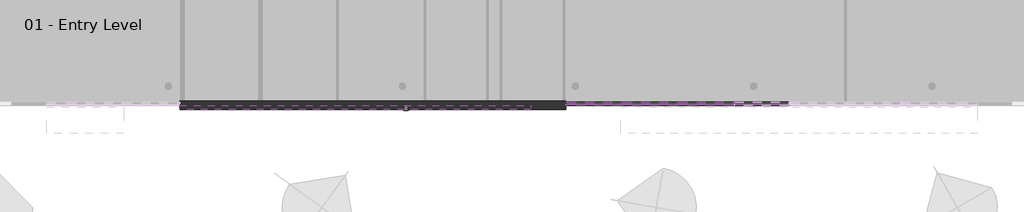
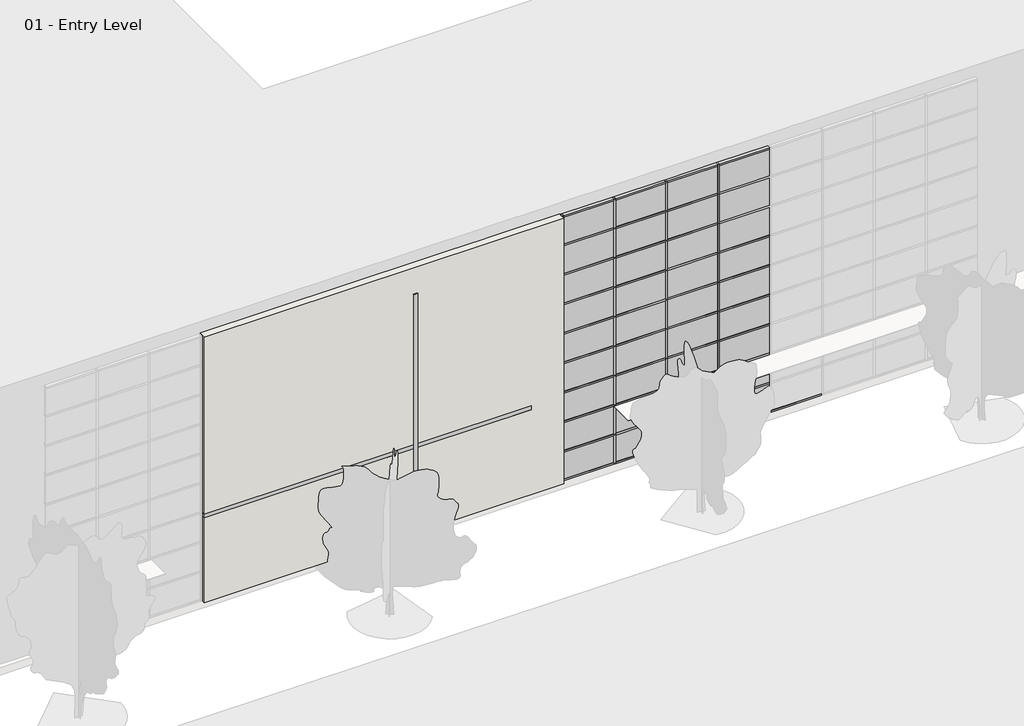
# One storey, part 2 of 34: 84 members, 36 plates, 2 proxies, 1 wall.
"""IFC4 building model written with IfcOpenShell, lengths in millimetres."""

from ifc_helpers import new_model, si_unit, frame, origin, origin_with_axes, place, context, project, spatial, polyline, outline, extrude, faceted_brep, transform, mapped, element, save
from components import member_2b49869a, member_75074519, member_391b434c, member_9e90ae50, system_panel_glazed_1b9d6098, system_panel_glazed_70da479d, system_panel_solid_b376696c, system_panel_solid_77e8b053

model = new_model("IFC4")

# Units and contexts
model_context = context("Model", 3, world=origin())
ifc_project = project(units=[si_unit("LENGTHUNIT", "METRE", prefix="MILLI")], contexts=[model_context])

# Site, building, storey
site = spatial("IfcSite", under=ifc_project)
building = spatial("IfcBuilding", under=site)
storey = spatial("IfcBuildingStorey", under=building, Name="01 - Entry Level", Elevation=0.0)

# Proxies
placement = place(None, origin())
element("IfcBuildingElementProxy", 1, Name="Reveal", ObjectType="Reveal", at=placement, inside=storey, context=model_context, shape_type="SweptSolid", body=[
    extrude(outline(polyline([(16536.3207476, -284.555), (16536.3207476, -101.675), (16688.7207476, -101.675), (16688.7207476, -284.555), (16536.3207476, -284.555)])), origin_with_axes(), (0.0, 0.0, 1.0), 9906.0),
])
element("IfcBuildingElementProxy", 2, Name="Reveal", ObjectType="Reveal", at=placement, inside=storey, context=model_context, shape_type="SweptSolid", body=[
    extrude(outline(polyline([(8357.5207476, -254.075), (8357.5207476, -101.675), (21159.1207476, -101.675), (21159.1207476, -254.075), (8357.5207476, -254.075)])), frame((0.0, 0.0, 3505.2), z_axis=(0.0, 0.0, 1.0), x_axis=(1.0, 0.0, 0.0)), (0.0, 0.0, 1.0), 152.4),
])

# Members
member_shape = member_2b49869a(model_context)
element("IfcMember", 3, ObjectType="Rectangular Mullion : 2.5\" x 5\" rectangular", at=placement, inside=storey, context=model_context, shape_type="MappedRepresentation", body=[
    mapped(member_shape, transform((22467.2207476, -47.7, 9753.6), x_axis=(1.0, 0.0, 0.0), y_axis=(0.0, -1.0, 0.0), z_axis=(0.0, 0.0, -1.0))),
])
element("IfcMember", 4, ObjectType="Rectangular Mullion : 2.5\" x 5\" rectangular", at=placement, inside=storey, context=model_context, shape_type="MappedRepresentation", body=[
    mapped(member_shape, transform((24499.2207476, -47.7, 9753.6), x_axis=(1.0, 0.0, 0.0), y_axis=(0.0, -1.0, 0.0), z_axis=(0.0, 0.0, -1.0))),
])
element("IfcMember", 5, ObjectType="Rectangular Mullion : 2.5\" x 5\" rectangular", at=placement, inside=storey, context=model_context, shape_type="MappedRepresentation", body=[
    mapped(member_shape, transform((26531.2207476, -47.7, 9753.6), x_axis=(1.0, 0.0, 0.0), y_axis=(0.0, -1.0, 0.0), z_axis=(0.0, 0.0, -1.0))),
])
element("IfcMember", 6, ObjectType="Rectangular Mullion : 2.5\" x 5\" rectangular", at=placement, inside=storey, context=model_context, shape_type="MappedRepresentation", body=[
    mapped(member_shape, transform((28563.2207476, -47.7, 9753.6), x_axis=(1.0, 0.0, 0.0), y_axis=(0.0, -1.0, 0.0), z_axis=(0.0, 0.0, -1.0))),
])
member_2_shape = member_75074519(model_context)
element("IfcMember", 7, ObjectType="Rectangular Mullion : 2.5\" x 5\" rectangular", at=placement, inside=storey, context=model_context, shape_type="MappedRepresentation", body=[
    mapped(member_2_shape, transform((22429.1207476, -47.7, 10972.8), x_axis=(-1.0, 0.0, 0.0), y_axis=(0.0, -1.0, 0.0), z_axis=(0.0, 0.0, 1.0))),
])
member_3_shape = member_391b434c(model_context)
element("IfcMember", 8, ObjectType="Rectangular Mullion : 2.5\" x 5\" rectangular", at=placement, inside=storey, context=model_context, shape_type="MappedRepresentation", body=[
    mapped(member_3_shape, transform((24467.4707476, -47.7, 10972.8), x_axis=(0.0, 0.0, 1.0), y_axis=(0.0, -1.0, 0.0), z_axis=(1.0, 0.0, 0.0))),
])
element("IfcMember", 9, ObjectType="Rectangular Mullion : 2.5\" x 5\" rectangular", at=placement, inside=storey, context=model_context, shape_type="MappedRepresentation", body=[
    mapped(member_3_shape, transform((26499.4707476, -47.7, 10972.8), x_axis=(0.0, 0.0, 1.0), y_axis=(0.0, -1.0, 0.0), z_axis=(1.0, 0.0, 0.0))),
])
element("IfcMember", 10, ObjectType="Rectangular Mullion : 2.5\" x 5\" rectangular", at=placement, inside=storey, context=model_context, shape_type="MappedRepresentation", body=[
    mapped(member_3_shape, transform((28531.4707476, -47.7, 10972.8), x_axis=(0.0, 0.0, 1.0), y_axis=(0.0, -1.0, 0.0), z_axis=(1.0, 0.0, 0.0))),
])
element("IfcMember", 11, ObjectType="Rectangular Mullion : 2.5\" x 5\" rectangular", at=placement, inside=storey, context=model_context, shape_type="MappedRepresentation", body=[
    mapped(member_3_shape, transform((30563.4707476, -47.7, 10972.8), x_axis=(0.0, 0.0, 1.0), y_axis=(0.0, -1.0, 0.0), z_axis=(1.0, 0.0, 0.0))),
])
element("IfcMember", 12, ObjectType="Rectangular Mullion : 2.5\" x 5\" rectangular", at=placement, inside=storey, context=model_context, shape_type="MappedRepresentation", body=[
    mapped(member_3_shape, transform((22498.9707476, -47.7, 0.0), x_axis=(0.0, 0.0, -1.0), y_axis=(0.0, -1.0, 0.0), z_axis=(-1.0, 0.0, 0.0))),
])
element("IfcMember", 13, ObjectType="Rectangular Mullion : 2.5\" x 5\" rectangular", at=placement, inside=storey, context=model_context, shape_type="MappedRepresentation", body=[
    mapped(member_3_shape, transform((24530.9707476, -47.7, 0.0), x_axis=(0.0, 0.0, -1.0), y_axis=(0.0, -1.0, 0.0), z_axis=(-1.0, 0.0, 0.0))),
])
element("IfcMember", 14, ObjectType="Rectangular Mullion : 2.5\" x 5\" rectangular", at=placement, inside=storey, context=model_context, shape_type="MappedRepresentation", body=[
    mapped(member_3_shape, transform((26562.9707476, -47.7, 0.0), x_axis=(0.0, 0.0, -1.0), y_axis=(0.0, -1.0, 0.0), z_axis=(-1.0, 0.0, 0.0))),
])
element("IfcMember", 15, ObjectType="Rectangular Mullion : 2.5\" x 5\" rectangular", at=placement, inside=storey, context=model_context, shape_type="MappedRepresentation", body=[
    mapped(member_3_shape, transform((28594.9707476, -47.7, 0.0), x_axis=(0.0, 0.0, -1.0), y_axis=(0.0, -1.0, 0.0), z_axis=(-1.0, 0.0, 0.0))),
])
element("IfcMember", 16, ObjectType="Rectangular Mullion : 2.5\" x 5\" rectangular", at=placement, inside=storey, context=model_context, shape_type="MappedRepresentation", body=[
    mapped(member_3_shape, transform((30626.9707476, -47.7, 0.0), x_axis=(0.0, 0.0, -1.0), y_axis=(0.0, -1.0, 0.0), z_axis=(-1.0, 0.0, 0.0))),
])
member_4_shape = member_9e90ae50(model_context)
element("IfcMember", 17, ObjectType="Rectangular Mullion : 2.5\" x 5\" rectangular", at=placement, inside=storey, context=model_context, shape_type="MappedRepresentation", body=[
    mapped(member_4_shape, transform((24467.4707476, -47.7, 1219.2), x_axis=(0.0, 0.0, 1.0), y_axis=(0.0, -1.0, 0.0), z_axis=(1.0, 0.0, 0.0))),
])
element("IfcMember", 18, ObjectType="Rectangular Mullion : 2.5\" x 5\" rectangular", at=placement, inside=storey, context=model_context, shape_type="MappedRepresentation", body=[
    mapped(member_4_shape, transform((26499.4707476, -47.7, 1219.2), x_axis=(0.0, 0.0, 1.0), y_axis=(0.0, -1.0, 0.0), z_axis=(1.0, 0.0, 0.0))),
])
element("IfcMember", 19, ObjectType="Rectangular Mullion : 2.5\" x 5\" rectangular", at=placement, inside=storey, context=model_context, shape_type="MappedRepresentation", body=[
    mapped(member_4_shape, transform((28531.4707476, -47.7, 1219.2), x_axis=(0.0, 0.0, 1.0), y_axis=(0.0, -1.0, 0.0), z_axis=(1.0, 0.0, 0.0))),
])
element("IfcMember", 20, ObjectType="Rectangular Mullion : 2.5\" x 5\" rectangular", at=placement, inside=storey, context=model_context, shape_type="MappedRepresentation", body=[
    mapped(member_4_shape, transform((30563.4707476, -47.7, 1219.2), x_axis=(0.0, 0.0, 1.0), y_axis=(0.0, -1.0, 0.0), z_axis=(1.0, 0.0, 0.0))),
])
element("IfcMember", 21, ObjectType="Rectangular Mullion : 2.5\" x 5\" rectangular", at=placement, inside=storey, context=model_context, shape_type="MappedRepresentation", body=[
    mapped(member_4_shape, transform((24467.4707476, -47.7, 2438.4), x_axis=(0.0, 0.0, 1.0), y_axis=(0.0, -1.0, 0.0), z_axis=(1.0, 0.0, 0.0))),
])
element("IfcMember", 22, ObjectType="Rectangular Mullion : 2.5\" x 5\" rectangular", at=placement, inside=storey, context=model_context, shape_type="MappedRepresentation", body=[
    mapped(member_4_shape, transform((26499.4707476, -47.7, 2438.4), x_axis=(0.0, 0.0, 1.0), y_axis=(0.0, -1.0, 0.0), z_axis=(1.0, 0.0, 0.0))),
])
element("IfcMember", 23, ObjectType="Rectangular Mullion : 2.5\" x 5\" rectangular", at=placement, inside=storey, context=model_context, shape_type="MappedRepresentation", body=[
    mapped(member_4_shape, transform((28531.4707476, -47.7, 2438.4), x_axis=(0.0, 0.0, 1.0), y_axis=(0.0, -1.0, 0.0), z_axis=(1.0, 0.0, 0.0))),
])
element("IfcMember", 24, ObjectType="Rectangular Mullion : 2.5\" x 5\" rectangular", at=placement, inside=storey, context=model_context, shape_type="MappedRepresentation", body=[
    mapped(member_4_shape, transform((30563.4707476, -47.7, 2438.4), x_axis=(0.0, 0.0, 1.0), y_axis=(0.0, -1.0, 0.0), z_axis=(1.0, 0.0, 0.0))),
])
element("IfcMember", 25, ObjectType="Rectangular Mullion : 2.5\" x 5\" rectangular", at=placement, inside=storey, context=model_context, shape_type="MappedRepresentation", body=[
    mapped(member_4_shape, transform((24467.4707476, -47.7, 3657.6), x_axis=(0.0, 0.0, 1.0), y_axis=(0.0, -1.0, 0.0), z_axis=(1.0, 0.0, 0.0))),
])
element("IfcMember", 26, ObjectType="Rectangular Mullion : 2.5\" x 5\" rectangular", at=placement, inside=storey, context=model_context, shape_type="MappedRepresentation", body=[
    mapped(member_4_shape, transform((26499.4707476, -47.7, 3657.6), x_axis=(0.0, 0.0, 1.0), y_axis=(0.0, -1.0, 0.0), z_axis=(1.0, 0.0, 0.0))),
])
element("IfcMember", 27, ObjectType="Rectangular Mullion : 2.5\" x 5\" rectangular", at=placement, inside=storey, context=model_context, shape_type="MappedRepresentation", body=[
    mapped(member_4_shape, transform((28531.4707476, -47.7, 3657.6), x_axis=(0.0, 0.0, 1.0), y_axis=(0.0, -1.0, 0.0), z_axis=(1.0, 0.0, 0.0))),
])
element("IfcMember", 28, ObjectType="Rectangular Mullion : 2.5\" x 5\" rectangular", at=placement, inside=storey, context=model_context, shape_type="MappedRepresentation", body=[
    mapped(member_4_shape, transform((30563.4707476, -47.7, 3657.6), x_axis=(0.0, 0.0, 1.0), y_axis=(0.0, -1.0, 0.0), z_axis=(1.0, 0.0, 0.0))),
])
element("IfcMember", 29, ObjectType="Rectangular Mullion : 2.5\" x 5\" rectangular", at=placement, inside=storey, context=model_context, shape_type="MappedRepresentation", body=[
    mapped(member_4_shape, transform((24467.4707476, -47.7, 4876.8), x_axis=(0.0, 0.0, 1.0), y_axis=(0.0, -1.0, 0.0), z_axis=(1.0, 0.0, 0.0))),
])
element("IfcMember", 30, ObjectType="Rectangular Mullion : 2.5\" x 5\" rectangular", at=placement, inside=storey, context=model_context, shape_type="MappedRepresentation", body=[
    mapped(member_4_shape, transform((26499.4707476, -47.7, 4876.8), x_axis=(0.0, 0.0, 1.0), y_axis=(0.0, -1.0, 0.0), z_axis=(1.0, 0.0, 0.0))),
])
element("IfcMember", 31, ObjectType="Rectangular Mullion : 2.5\" x 5\" rectangular", at=placement, inside=storey, context=model_context, shape_type="MappedRepresentation", body=[
    mapped(member_4_shape, transform((28531.4707476, -47.7, 4876.8), x_axis=(0.0, 0.0, 1.0), y_axis=(0.0, -1.0, 0.0), z_axis=(1.0, 0.0, 0.0))),
])
element("IfcMember", 32, ObjectType="Rectangular Mullion : 2.5\" x 5\" rectangular", at=placement, inside=storey, context=model_context, shape_type="MappedRepresentation", body=[
    mapped(member_4_shape, transform((30563.4707476, -47.7, 4876.8), x_axis=(0.0, 0.0, 1.0), y_axis=(0.0, -1.0, 0.0), z_axis=(1.0, 0.0, 0.0))),
])
element("IfcMember", 33, ObjectType="Rectangular Mullion : 2.5\" x 5\" rectangular", at=placement, inside=storey, context=model_context, shape_type="MappedRepresentation", body=[
    mapped(member_4_shape, transform((24467.4707476, -47.7, 6096.0), x_axis=(0.0, 0.0, 1.0), y_axis=(0.0, -1.0, 0.0), z_axis=(1.0, 0.0, 0.0))),
])
element("IfcMember", 34, ObjectType="Rectangular Mullion : 2.5\" x 5\" rectangular", at=placement, inside=storey, context=model_context, shape_type="MappedRepresentation", body=[
    mapped(member_4_shape, transform((26499.4707476, -47.7, 6096.0), x_axis=(0.0, 0.0, 1.0), y_axis=(0.0, -1.0, 0.0), z_axis=(1.0, 0.0, 0.0))),
])
element("IfcMember", 35, ObjectType="Rectangular Mullion : 2.5\" x 5\" rectangular", at=placement, inside=storey, context=model_context, shape_type="MappedRepresentation", body=[
    mapped(member_4_shape, transform((28531.4707476, -47.7, 6096.0), x_axis=(0.0, 0.0, 1.0), y_axis=(0.0, -1.0, 0.0), z_axis=(1.0, 0.0, 0.0))),
])
element("IfcMember", 36, ObjectType="Rectangular Mullion : 2.5\" x 5\" rectangular", at=placement, inside=storey, context=model_context, shape_type="MappedRepresentation", body=[
    mapped(member_4_shape, transform((30563.4707476, -47.7, 6096.0), x_axis=(0.0, 0.0, 1.0), y_axis=(0.0, -1.0, 0.0), z_axis=(1.0, 0.0, 0.0))),
])
element("IfcMember", 37, ObjectType="Rectangular Mullion : 2.5\" x 5\" rectangular", at=placement, inside=storey, context=model_context, shape_type="MappedRepresentation", body=[
    mapped(member_4_shape, transform((24467.4707476, -47.7, 7315.2), x_axis=(0.0, 0.0, 1.0), y_axis=(0.0, -1.0, 0.0), z_axis=(1.0, 0.0, 0.0))),
])
element("IfcMember", 38, ObjectType="Rectangular Mullion : 2.5\" x 5\" rectangular", at=placement, inside=storey, context=model_context, shape_type="MappedRepresentation", body=[
    mapped(member_4_shape, transform((26499.4707476, -47.7, 7315.2), x_axis=(0.0, 0.0, 1.0), y_axis=(0.0, -1.0, 0.0), z_axis=(1.0, 0.0, 0.0))),
])
element("IfcMember", 39, ObjectType="Rectangular Mullion : 2.5\" x 5\" rectangular", at=placement, inside=storey, context=model_context, shape_type="MappedRepresentation", body=[
    mapped(member_4_shape, transform((28531.4707476, -47.7, 7315.2), x_axis=(0.0, 0.0, 1.0), y_axis=(0.0, -1.0, 0.0), z_axis=(1.0, 0.0, 0.0))),
])
element("IfcMember", 40, ObjectType="Rectangular Mullion : 2.5\" x 5\" rectangular", at=placement, inside=storey, context=model_context, shape_type="MappedRepresentation", body=[
    mapped(member_4_shape, transform((30563.4707476, -47.7, 7315.2), x_axis=(0.0, 0.0, 1.0), y_axis=(0.0, -1.0, 0.0), z_axis=(1.0, 0.0, 0.0))),
])
element("IfcMember", 41, ObjectType="Rectangular Mullion : 2.5\" x 5\" rectangular", at=placement, inside=storey, context=model_context, shape_type="MappedRepresentation", body=[
    mapped(member_4_shape, transform((24467.4707476, -47.7, 8534.4), x_axis=(0.0, 0.0, 1.0), y_axis=(0.0, -1.0, 0.0), z_axis=(1.0, 0.0, 0.0))),
])
element("IfcMember", 42, ObjectType="Rectangular Mullion : 2.5\" x 5\" rectangular", at=placement, inside=storey, context=model_context, shape_type="MappedRepresentation", body=[
    mapped(member_4_shape, transform((26499.4707476, -47.7, 8534.4), x_axis=(0.0, 0.0, 1.0), y_axis=(0.0, -1.0, 0.0), z_axis=(1.0, 0.0, 0.0))),
])
element("IfcMember", 43, ObjectType="Rectangular Mullion : 2.5\" x 5\" rectangular", at=placement, inside=storey, context=model_context, shape_type="MappedRepresentation", body=[
    mapped(member_4_shape, transform((28531.4707476, -47.7, 8534.4), x_axis=(0.0, 0.0, 1.0), y_axis=(0.0, -1.0, 0.0), z_axis=(1.0, 0.0, 0.0))),
])
element("IfcMember", 44, ObjectType="Rectangular Mullion : 2.5\" x 5\" rectangular", at=placement, inside=storey, context=model_context, shape_type="MappedRepresentation", body=[
    mapped(member_4_shape, transform((24467.4707476, -47.7, 9753.6), x_axis=(0.0, 0.0, 1.0), y_axis=(0.0, -1.0, 0.0), z_axis=(1.0, 0.0, 0.0))),
])
element("IfcMember", 45, ObjectType="Rectangular Mullion : 2.5\" x 5\" rectangular", at=placement, inside=storey, context=model_context, shape_type="MappedRepresentation", body=[
    mapped(member_4_shape, transform((26499.4707476, -47.7, 9753.6), x_axis=(0.0, 0.0, 1.0), y_axis=(0.0, -1.0, 0.0), z_axis=(1.0, 0.0, 0.0))),
])
element("IfcMember", 46, ObjectType="Rectangular Mullion : 2.5\" x 5\" rectangular", at=placement, inside=storey, context=model_context, shape_type="MappedRepresentation", body=[
    mapped(member_4_shape, transform((28531.4707476, -47.7, 9753.6), x_axis=(0.0, 0.0, 1.0), y_axis=(0.0, -1.0, 0.0), z_axis=(1.0, 0.0, 0.0))),
])
element("IfcMember", 47, ObjectType="Rectangular Mullion : 2.5\" x 5\" rectangular", at=placement, inside=storey, context=model_context, shape_type="MappedRepresentation", body=[
    mapped(member_shape, transform((22467.2207476, -47.7, 0.0), x_axis=(1.0, 0.0, 0.0), y_axis=(0.0, -1.0, 0.0), z_axis=(0.0, 0.0, -1.0))),
])
element("IfcMember", 48, ObjectType="Rectangular Mullion : 2.5\" x 5\" rectangular", at=placement, inside=storey, context=model_context, shape_type="MappedRepresentation", body=[
    mapped(member_shape, transform((24499.2207476, -47.7, 0.0), x_axis=(1.0, 0.0, 0.0), y_axis=(0.0, -1.0, 0.0), z_axis=(0.0, 0.0, -1.0))),
])
element("IfcMember", 49, ObjectType="Rectangular Mullion : 2.5\" x 5\" rectangular", at=placement, inside=storey, context=model_context, shape_type="MappedRepresentation", body=[
    mapped(member_shape, transform((26531.2207476, -47.7, 0.0), x_axis=(1.0, 0.0, 0.0), y_axis=(0.0, -1.0, 0.0), z_axis=(0.0, 0.0, -1.0))),
])
element("IfcMember", 50, ObjectType="Rectangular Mullion : 2.5\" x 5\" rectangular", at=placement, inside=storey, context=model_context, shape_type="MappedRepresentation", body=[
    mapped(member_shape, transform((28563.2207476, -47.7, 0.0), x_axis=(1.0, 0.0, 0.0), y_axis=(0.0, -1.0, 0.0), z_axis=(0.0, 0.0, -1.0))),
])
element("IfcMember", 51, ObjectType="Rectangular Mullion : 2.5\" x 5\" rectangular", at=placement, inside=storey, context=model_context, shape_type="MappedRepresentation", body=[
    mapped(member_shape, transform((22467.2207476, -47.7, 1219.2), x_axis=(1.0, 0.0, 0.0), y_axis=(0.0, -1.0, 0.0), z_axis=(0.0, 0.0, -1.0))),
])
element("IfcMember", 52, ObjectType="Rectangular Mullion : 2.5\" x 5\" rectangular", at=placement, inside=storey, context=model_context, shape_type="MappedRepresentation", body=[
    mapped(member_shape, transform((24499.2207476, -47.7, 1219.2), x_axis=(1.0, 0.0, 0.0), y_axis=(0.0, -1.0, 0.0), z_axis=(0.0, 0.0, -1.0))),
])
element("IfcMember", 53, ObjectType="Rectangular Mullion : 2.5\" x 5\" rectangular", at=placement, inside=storey, context=model_context, shape_type="MappedRepresentation", body=[
    mapped(member_shape, transform((26531.2207476, -47.7, 1219.2), x_axis=(1.0, 0.0, 0.0), y_axis=(0.0, -1.0, 0.0), z_axis=(0.0, 0.0, -1.0))),
])
element("IfcMember", 54, ObjectType="Rectangular Mullion : 2.5\" x 5\" rectangular", at=placement, inside=storey, context=model_context, shape_type="MappedRepresentation", body=[
    mapped(member_shape, transform((28563.2207476, -47.7, 1219.2), x_axis=(1.0, 0.0, 0.0), y_axis=(0.0, -1.0, 0.0), z_axis=(0.0, 0.0, -1.0))),
])
element("IfcMember", 55, ObjectType="Rectangular Mullion : 2.5\" x 5\" rectangular", at=placement, inside=storey, context=model_context, shape_type="MappedRepresentation", body=[
    mapped(member_shape, transform((22467.2207476, -47.7, 2438.4), x_axis=(1.0, 0.0, 0.0), y_axis=(0.0, -1.0, 0.0), z_axis=(0.0, 0.0, -1.0))),
])
element("IfcMember", 56, ObjectType="Rectangular Mullion : 2.5\" x 5\" rectangular", at=placement, inside=storey, context=model_context, shape_type="MappedRepresentation", body=[
    mapped(member_shape, transform((24499.2207476, -47.7, 2438.4), x_axis=(1.0, 0.0, 0.0), y_axis=(0.0, -1.0, 0.0), z_axis=(0.0, 0.0, -1.0))),
])
element("IfcMember", 57, ObjectType="Rectangular Mullion : 2.5\" x 5\" rectangular", at=placement, inside=storey, context=model_context, shape_type="MappedRepresentation", body=[
    mapped(member_shape, transform((26531.2207476, -47.7, 2438.4), x_axis=(1.0, 0.0, 0.0), y_axis=(0.0, -1.0, 0.0), z_axis=(0.0, 0.0, -1.0))),
])
element("IfcMember", 58, ObjectType="Rectangular Mullion : 2.5\" x 5\" rectangular", at=placement, inside=storey, context=model_context, shape_type="MappedRepresentation", body=[
    mapped(member_shape, transform((28563.2207476, -47.7, 2438.4), x_axis=(1.0, 0.0, 0.0), y_axis=(0.0, -1.0, 0.0), z_axis=(0.0, 0.0, -1.0))),
])
element("IfcMember", 59, ObjectType="Rectangular Mullion : 2.5\" x 5\" rectangular", at=placement, inside=storey, context=model_context, shape_type="MappedRepresentation", body=[
    mapped(member_shape, transform((22467.2207476, -47.7, 3657.6), x_axis=(1.0, 0.0, 0.0), y_axis=(0.0, -1.0, 0.0), z_axis=(0.0, 0.0, -1.0))),
])
element("IfcMember", 60, ObjectType="Rectangular Mullion : 2.5\" x 5\" rectangular", at=placement, inside=storey, context=model_context, shape_type="MappedRepresentation", body=[
    mapped(member_shape, transform((24499.2207476, -47.7, 3657.6), x_axis=(1.0, 0.0, 0.0), y_axis=(0.0, -1.0, 0.0), z_axis=(0.0, 0.0, -1.0))),
])
element("IfcMember", 61, ObjectType="Rectangular Mullion : 2.5\" x 5\" rectangular", at=placement, inside=storey, context=model_context, shape_type="MappedRepresentation", body=[
    mapped(member_shape, transform((26531.2207476, -47.7, 3657.6), x_axis=(1.0, 0.0, 0.0), y_axis=(0.0, -1.0, 0.0), z_axis=(0.0, 0.0, -1.0))),
])
element("IfcMember", 62, ObjectType="Rectangular Mullion : 2.5\" x 5\" rectangular", at=placement, inside=storey, context=model_context, shape_type="MappedRepresentation", body=[
    mapped(member_shape, transform((28563.2207476, -47.7, 3657.6), x_axis=(1.0, 0.0, 0.0), y_axis=(0.0, -1.0, 0.0), z_axis=(0.0, 0.0, -1.0))),
])
element("IfcMember", 63, ObjectType="Rectangular Mullion : 2.5\" x 5\" rectangular", at=placement, inside=storey, context=model_context, shape_type="MappedRepresentation", body=[
    mapped(member_shape, transform((22467.2207476, -47.7, 4876.8), x_axis=(1.0, 0.0, 0.0), y_axis=(0.0, -1.0, 0.0), z_axis=(0.0, 0.0, -1.0))),
])
element("IfcMember", 64, ObjectType="Rectangular Mullion : 2.5\" x 5\" rectangular", at=placement, inside=storey, context=model_context, shape_type="MappedRepresentation", body=[
    mapped(member_shape, transform((24499.2207476, -47.7, 4876.8), x_axis=(1.0, 0.0, 0.0), y_axis=(0.0, -1.0, 0.0), z_axis=(0.0, 0.0, -1.0))),
])
element("IfcMember", 65, ObjectType="Rectangular Mullion : 2.5\" x 5\" rectangular", at=placement, inside=storey, context=model_context, shape_type="MappedRepresentation", body=[
    mapped(member_shape, transform((26531.2207476, -47.7, 4876.8), x_axis=(1.0, 0.0, 0.0), y_axis=(0.0, -1.0, 0.0), z_axis=(0.0, 0.0, -1.0))),
])
element("IfcMember", 66, ObjectType="Rectangular Mullion : 2.5\" x 5\" rectangular", at=placement, inside=storey, context=model_context, shape_type="MappedRepresentation", body=[
    mapped(member_shape, transform((28563.2207476, -47.7, 4876.8), x_axis=(1.0, 0.0, 0.0), y_axis=(0.0, -1.0, 0.0), z_axis=(0.0, 0.0, -1.0))),
])
element("IfcMember", 67, ObjectType="Rectangular Mullion : 2.5\" x 5\" rectangular", at=placement, inside=storey, context=model_context, shape_type="MappedRepresentation", body=[
    mapped(member_shape, transform((22467.2207476, -47.7, 6096.0), x_axis=(1.0, 0.0, 0.0), y_axis=(0.0, -1.0, 0.0), z_axis=(0.0, 0.0, -1.0))),
])
element("IfcMember", 68, ObjectType="Rectangular Mullion : 2.5\" x 5\" rectangular", at=placement, inside=storey, context=model_context, shape_type="MappedRepresentation", body=[
    mapped(member_shape, transform((24499.2207476, -47.7, 6096.0), x_axis=(1.0, 0.0, 0.0), y_axis=(0.0, -1.0, 0.0), z_axis=(0.0, 0.0, -1.0))),
])
element("IfcMember", 69, ObjectType="Rectangular Mullion : 2.5\" x 5\" rectangular", at=placement, inside=storey, context=model_context, shape_type="MappedRepresentation", body=[
    mapped(member_shape, transform((26531.2207476, -47.7, 6096.0), x_axis=(1.0, 0.0, 0.0), y_axis=(0.0, -1.0, 0.0), z_axis=(0.0, 0.0, -1.0))),
])
element("IfcMember", 70, ObjectType="Rectangular Mullion : 2.5\" x 5\" rectangular", at=placement, inside=storey, context=model_context, shape_type="MappedRepresentation", body=[
    mapped(member_shape, transform((28563.2207476, -47.7, 6096.0), x_axis=(1.0, 0.0, 0.0), y_axis=(0.0, -1.0, 0.0), z_axis=(0.0, 0.0, -1.0))),
])
element("IfcMember", 71, ObjectType="Rectangular Mullion : 2.5\" x 5\" rectangular", at=placement, inside=storey, context=model_context, shape_type="MappedRepresentation", body=[
    mapped(member_shape, transform((22467.2207476, -47.7, 7315.2), x_axis=(1.0, 0.0, 0.0), y_axis=(0.0, -1.0, 0.0), z_axis=(0.0, 0.0, -1.0))),
])
element("IfcMember", 72, ObjectType="Rectangular Mullion : 2.5\" x 5\" rectangular", at=placement, inside=storey, context=model_context, shape_type="MappedRepresentation", body=[
    mapped(member_shape, transform((24499.2207476, -47.7, 7315.2), x_axis=(1.0, 0.0, 0.0), y_axis=(0.0, -1.0, 0.0), z_axis=(0.0, 0.0, -1.0))),
])
element("IfcMember", 73, ObjectType="Rectangular Mullion : 2.5\" x 5\" rectangular", at=placement, inside=storey, context=model_context, shape_type="MappedRepresentation", body=[
    mapped(member_shape, transform((26531.2207476, -47.7, 7315.2), x_axis=(1.0, 0.0, 0.0), y_axis=(0.0, -1.0, 0.0), z_axis=(0.0, 0.0, -1.0))),
])
element("IfcMember", 74, ObjectType="Rectangular Mullion : 2.5\" x 5\" rectangular", at=placement, inside=storey, context=model_context, shape_type="MappedRepresentation", body=[
    mapped(member_shape, transform((28563.2207476, -47.7, 7315.2), x_axis=(1.0, 0.0, 0.0), y_axis=(0.0, -1.0, 0.0), z_axis=(0.0, 0.0, -1.0))),
])
element("IfcMember", 75, ObjectType="Rectangular Mullion : 2.5\" x 5\" rectangular", at=placement, inside=storey, context=model_context, shape_type="MappedRepresentation", body=[
    mapped(member_shape, transform((22467.2207476, -47.7, 8534.4), x_axis=(1.0, 0.0, 0.0), y_axis=(0.0, -1.0, 0.0), z_axis=(0.0, 0.0, -1.0))),
])
element("IfcMember", 76, ObjectType="Rectangular Mullion : 2.5\" x 5\" rectangular", at=placement, inside=storey, context=model_context, shape_type="MappedRepresentation", body=[
    mapped(member_shape, transform((24499.2207476, -47.7, 8534.4), x_axis=(1.0, 0.0, 0.0), y_axis=(0.0, -1.0, 0.0), z_axis=(0.0, 0.0, -1.0))),
])
element("IfcMember", 77, ObjectType="Rectangular Mullion : 2.5\" x 5\" rectangular", at=placement, inside=storey, context=model_context, shape_type="MappedRepresentation", body=[
    mapped(member_shape, transform((26531.2207476, -47.7, 8534.4), x_axis=(1.0, 0.0, 0.0), y_axis=(0.0, -1.0, 0.0), z_axis=(0.0, 0.0, -1.0))),
])
element("IfcMember", 78, ObjectType="Rectangular Mullion : 2.5\" x 5\" rectangular", at=placement, inside=storey, context=model_context, shape_type="MappedRepresentation", body=[
    mapped(member_shape, transform((28563.2207476, -47.7, 8534.4), x_axis=(1.0, 0.0, 0.0), y_axis=(0.0, -1.0, 0.0), z_axis=(0.0, 0.0, -1.0))),
])
element("IfcMember", 79, ObjectType="Rectangular Mullion : 2.5\" x 5\" rectangular", at=placement, inside=storey, context=model_context, shape_type="MappedRepresentation", body=[
    mapped(member_2_shape, transform((22429.1207476, -47.7, 1219.2), x_axis=(-1.0, 0.0, 0.0), y_axis=(0.0, -1.0, 0.0), z_axis=(0.0, 0.0, 1.0))),
])
element("IfcMember", 80, ObjectType="Rectangular Mullion : 2.5\" x 5\" rectangular", at=placement, inside=storey, context=model_context, shape_type="MappedRepresentation", body=[
    mapped(member_2_shape, transform((22429.1207476, -47.7, 2438.4), x_axis=(-1.0, 0.0, 0.0), y_axis=(0.0, -1.0, 0.0), z_axis=(0.0, 0.0, 1.0))),
])
element("IfcMember", 81, ObjectType="Rectangular Mullion : 2.5\" x 5\" rectangular", at=placement, inside=storey, context=model_context, shape_type="MappedRepresentation", body=[
    mapped(member_2_shape, transform((22429.1207476, -47.7, 3657.6), x_axis=(-1.0, 0.0, 0.0), y_axis=(0.0, -1.0, 0.0), z_axis=(0.0, 0.0, 1.0))),
])
element("IfcMember", 82, ObjectType="Rectangular Mullion : 2.5\" x 5\" rectangular", at=placement, inside=storey, context=model_context, shape_type="MappedRepresentation", body=[
    mapped(member_2_shape, transform((22429.1207476, -47.7, 4876.8), x_axis=(-1.0, 0.0, 0.0), y_axis=(0.0, -1.0, 0.0), z_axis=(0.0, 0.0, 1.0))),
])
element("IfcMember", 83, ObjectType="Rectangular Mullion : 2.5\" x 5\" rectangular", at=placement, inside=storey, context=model_context, shape_type="MappedRepresentation", body=[
    mapped(member_2_shape, transform((22429.1207476, -47.7, 6096.0), x_axis=(-1.0, 0.0, 0.0), y_axis=(0.0, -1.0, 0.0), z_axis=(0.0, 0.0, 1.0))),
])
element("IfcMember", 84, ObjectType="Rectangular Mullion : 2.5\" x 5\" rectangular", at=placement, inside=storey, context=model_context, shape_type="MappedRepresentation", body=[
    mapped(member_2_shape, transform((22429.1207476, -47.7, 7315.2), x_axis=(-1.0, 0.0, 0.0), y_axis=(0.0, -1.0, 0.0), z_axis=(0.0, 0.0, 1.0))),
])
element("IfcMember", 85, ObjectType="Rectangular Mullion : 2.5\" x 5\" rectangular", at=placement, inside=storey, context=model_context, shape_type="MappedRepresentation", body=[
    mapped(member_2_shape, transform((22429.1207476, -47.7, 8534.4), x_axis=(-1.0, 0.0, 0.0), y_axis=(0.0, -1.0, 0.0), z_axis=(0.0, 0.0, 1.0))),
])
element("IfcMember", 86, ObjectType="Rectangular Mullion : 2.5\" x 5\" rectangular", at=placement, inside=storey, context=model_context, shape_type="MappedRepresentation", body=[
    mapped(member_2_shape, transform((22429.1207476, -47.7, 9753.6), x_axis=(-1.0, 0.0, 0.0), y_axis=(0.0, -1.0, 0.0), z_axis=(0.0, 0.0, 1.0))),
])

# Plates
system_panel_glazed_shape = system_panel_glazed_1b9d6098(model_context)
element("IfcPlate", 87, ObjectType="System Panel : Glazed", at=placement, inside=storey, context=model_context, shape_type="MappedRepresentation", body=[
    mapped(system_panel_glazed_shape, transform((23483.2207476, -47.7, 63.5), x_axis=(1.0, 0.0, 0.0), y_axis=(0.0, 1.0, 0.0), z_axis=(0.0, 0.0, 1.0))),
])
element("IfcPlate", 88, ObjectType="System Panel : Glazed", at=placement, inside=storey, context=model_context, shape_type="MappedRepresentation", body=[
    mapped(system_panel_glazed_shape, transform((25515.2207476, -47.7, 63.5), x_axis=(1.0, 0.0, 0.0), y_axis=(0.0, 1.0, 0.0), z_axis=(0.0, 0.0, 1.0))),
])
element("IfcPlate", 89, ObjectType="System Panel : Glazed", at=placement, inside=storey, context=model_context, shape_type="MappedRepresentation", body=[
    mapped(system_panel_glazed_shape, transform((27547.2207476, -47.7, 63.5), x_axis=(1.0, 0.0, 0.0), y_axis=(0.0, 1.0, 0.0), z_axis=(0.0, 0.0, 1.0))),
])
element("IfcPlate", 90, ObjectType="System Panel : Glazed", at=placement, inside=storey, context=model_context, shape_type="MappedRepresentation", body=[
    mapped(system_panel_glazed_shape, transform((29579.2207476, -47.7, 63.5), x_axis=(1.0, 0.0, 0.0), y_axis=(0.0, 1.0, 0.0), z_axis=(0.0, 0.0, 1.0))),
])
system_panel_glazed_2_shape = system_panel_glazed_70da479d(model_context)
element("IfcPlate", 91, ObjectType="System Panel : Glazed", at=placement, inside=storey, context=model_context, shape_type="MappedRepresentation", body=[
    mapped(system_panel_glazed_2_shape, transform((23483.2207476, -47.7, 1250.95), x_axis=(1.0, 0.0, 0.0), y_axis=(0.0, 1.0, 0.0), z_axis=(0.0, 0.0, 1.0))),
])
element("IfcPlate", 92, ObjectType="System Panel : Glazed", at=placement, inside=storey, context=model_context, shape_type="MappedRepresentation", body=[
    mapped(system_panel_glazed_2_shape, transform((25515.2207476, -47.7, 1250.95), x_axis=(1.0, 0.0, 0.0), y_axis=(0.0, 1.0, 0.0), z_axis=(0.0, 0.0, 1.0))),
])
element("IfcPlate", 93, ObjectType="System Panel : Glazed", at=placement, inside=storey, context=model_context, shape_type="MappedRepresentation", body=[
    mapped(system_panel_glazed_2_shape, transform((27547.2207476, -47.7, 1250.95), x_axis=(1.0, 0.0, 0.0), y_axis=(0.0, 1.0, 0.0), z_axis=(0.0, 0.0, 1.0))),
])
element("IfcPlate", 94, ObjectType="System Panel : Glazed", at=placement, inside=storey, context=model_context, shape_type="MappedRepresentation", body=[
    mapped(system_panel_glazed_2_shape, transform((29579.2207476, -47.7, 1250.95), x_axis=(1.0, 0.0, 0.0), y_axis=(0.0, 1.0, 0.0), z_axis=(0.0, 0.0, 1.0))),
])
element("IfcPlate", 95, ObjectType="System Panel : Glazed", at=placement, inside=storey, context=model_context, shape_type="MappedRepresentation", body=[
    mapped(system_panel_glazed_2_shape, transform((23483.2207476, -47.7, 3689.35), x_axis=(1.0, 0.0, 0.0), y_axis=(0.0, 1.0, 0.0), z_axis=(0.0, 0.0, 1.0))),
])
element("IfcPlate", 96, ObjectType="System Panel : Glazed", at=placement, inside=storey, context=model_context, shape_type="MappedRepresentation", body=[
    mapped(system_panel_glazed_2_shape, transform((25515.2207476, -47.7, 3689.35), x_axis=(1.0, 0.0, 0.0), y_axis=(0.0, 1.0, 0.0), z_axis=(0.0, 0.0, 1.0))),
])
element("IfcPlate", 97, ObjectType="System Panel : Glazed", at=placement, inside=storey, context=model_context, shape_type="MappedRepresentation", body=[
    mapped(system_panel_glazed_2_shape, transform((27547.2207476, -47.7, 3689.35), x_axis=(1.0, 0.0, 0.0), y_axis=(0.0, 1.0, 0.0), z_axis=(0.0, 0.0, 1.0))),
])
element("IfcPlate", 98, ObjectType="System Panel : Glazed", at=placement, inside=storey, context=model_context, shape_type="MappedRepresentation", body=[
    mapped(system_panel_glazed_2_shape, transform((29579.2207476, -47.7, 3689.35), x_axis=(1.0, 0.0, 0.0), y_axis=(0.0, 1.0, 0.0), z_axis=(0.0, 0.0, 1.0))),
])
element("IfcPlate", 99, ObjectType="System Panel : Glazed", at=placement, inside=storey, context=model_context, shape_type="MappedRepresentation", body=[
    mapped(system_panel_glazed_2_shape, transform((23483.2207476, -47.7, 4908.55), x_axis=(1.0, 0.0, 0.0), y_axis=(0.0, 1.0, 0.0), z_axis=(0.0, 0.0, 1.0))),
])
element("IfcPlate", 100, ObjectType="System Panel : Glazed", at=placement, inside=storey, context=model_context, shape_type="MappedRepresentation", body=[
    mapped(system_panel_glazed_2_shape, transform((25515.2207476, -47.7, 4908.55), x_axis=(1.0, 0.0, 0.0), y_axis=(0.0, 1.0, 0.0), z_axis=(0.0, 0.0, 1.0))),
])
element("IfcPlate", 101, ObjectType="System Panel : Glazed", at=placement, inside=storey, context=model_context, shape_type="MappedRepresentation", body=[
    mapped(system_panel_glazed_2_shape, transform((27547.2207476, -47.7, 4908.55), x_axis=(1.0, 0.0, 0.0), y_axis=(0.0, 1.0, 0.0), z_axis=(0.0, 0.0, 1.0))),
])
element("IfcPlate", 102, ObjectType="System Panel : Glazed", at=placement, inside=storey, context=model_context, shape_type="MappedRepresentation", body=[
    mapped(system_panel_glazed_2_shape, transform((29579.2207476, -47.7, 4908.55), x_axis=(1.0, 0.0, 0.0), y_axis=(0.0, 1.0, 0.0), z_axis=(0.0, 0.0, 1.0))),
])
element("IfcPlate", 103, ObjectType="System Panel : Glazed", at=placement, inside=storey, context=model_context, shape_type="MappedRepresentation", body=[
    mapped(system_panel_glazed_2_shape, transform((23483.2207476, -47.7, 7346.95), x_axis=(1.0, 0.0, 0.0), y_axis=(0.0, 1.0, 0.0), z_axis=(0.0, 0.0, 1.0))),
])
element("IfcPlate", 104, ObjectType="System Panel : Glazed", at=placement, inside=storey, context=model_context, shape_type="MappedRepresentation", body=[
    mapped(system_panel_glazed_2_shape, transform((25515.2207476, -47.7, 7346.95), x_axis=(1.0, 0.0, 0.0), y_axis=(0.0, 1.0, 0.0), z_axis=(0.0, 0.0, 1.0))),
])
element("IfcPlate", 105, ObjectType="System Panel : Glazed", at=placement, inside=storey, context=model_context, shape_type="MappedRepresentation", body=[
    mapped(system_panel_glazed_2_shape, transform((27547.2207476, -47.7, 7346.95), x_axis=(1.0, 0.0, 0.0), y_axis=(0.0, 1.0, 0.0), z_axis=(0.0, 0.0, 1.0))),
])
element("IfcPlate", 106, ObjectType="System Panel : Glazed", at=placement, inside=storey, context=model_context, shape_type="MappedRepresentation", body=[
    mapped(system_panel_glazed_2_shape, transform((29579.2207476, -47.7, 7346.95), x_axis=(1.0, 0.0, 0.0), y_axis=(0.0, 1.0, 0.0), z_axis=(0.0, 0.0, 1.0))),
])
element("IfcPlate", 107, ObjectType="System Panel : Glazed", at=placement, inside=storey, context=model_context, shape_type="MappedRepresentation", body=[
    mapped(system_panel_glazed_2_shape, transform((23483.2207476, -47.7, 8566.15), x_axis=(1.0, 0.0, 0.0), y_axis=(0.0, 1.0, 0.0), z_axis=(0.0, 0.0, 1.0))),
])
element("IfcPlate", 108, ObjectType="System Panel : Glazed", at=placement, inside=storey, context=model_context, shape_type="MappedRepresentation", body=[
    mapped(system_panel_glazed_2_shape, transform((25515.2207476, -47.7, 8566.15), x_axis=(1.0, 0.0, 0.0), y_axis=(0.0, 1.0, 0.0), z_axis=(0.0, 0.0, 1.0))),
])
element("IfcPlate", 109, ObjectType="System Panel : Glazed", at=placement, inside=storey, context=model_context, shape_type="MappedRepresentation", body=[
    mapped(system_panel_glazed_2_shape, transform((27547.2207476, -47.7, 8566.15), x_axis=(1.0, 0.0, 0.0), y_axis=(0.0, 1.0, 0.0), z_axis=(0.0, 0.0, 1.0))),
])
element("IfcPlate", 110, ObjectType="System Panel : Glazed", at=placement, inside=storey, context=model_context, shape_type="MappedRepresentation", body=[
    mapped(system_panel_glazed_2_shape, transform((29579.2207476, -47.7, 8566.15), x_axis=(1.0, 0.0, 0.0), y_axis=(0.0, 1.0, 0.0), z_axis=(0.0, 0.0, 1.0))),
])
system_panel_solid_shape = system_panel_solid_b376696c(model_context)
element("IfcPlate", 111, ObjectType="System Panel : Solid", at=placement, inside=storey, context=model_context, shape_type="MappedRepresentation", body=[
    mapped(system_panel_solid_shape, transform((23483.2207476, -47.7, 9785.35), x_axis=(1.0, 0.0, 0.0), y_axis=(0.0, 1.0, 0.0), z_axis=(0.0, 0.0, 1.0))),
])
element("IfcPlate", 112, ObjectType="System Panel : Solid", at=placement, inside=storey, context=model_context, shape_type="MappedRepresentation", body=[
    mapped(system_panel_solid_shape, transform((25515.2207476, -47.7, 9785.35), x_axis=(1.0, 0.0, 0.0), y_axis=(0.0, 1.0, 0.0), z_axis=(0.0, 0.0, 1.0))),
])
element("IfcPlate", 113, ObjectType="System Panel : Solid", at=placement, inside=storey, context=model_context, shape_type="MappedRepresentation", body=[
    mapped(system_panel_solid_shape, transform((27547.2207476, -47.7, 9785.35), x_axis=(1.0, 0.0, 0.0), y_axis=(0.0, 1.0, 0.0), z_axis=(0.0, 0.0, 1.0))),
])
element("IfcPlate", 114, ObjectType="System Panel : Solid", at=placement, inside=storey, context=model_context, shape_type="MappedRepresentation", body=[
    mapped(system_panel_solid_shape, transform((29579.2207476, -47.7, 9785.35), x_axis=(1.0, 0.0, 0.0), y_axis=(0.0, 1.0, 0.0), z_axis=(0.0, 0.0, 1.0))),
])
system_panel_solid_2_shape = system_panel_solid_77e8b053(model_context)
element("IfcPlate", 115, ObjectType="System Panel : Solid", at=placement, inside=storey, context=model_context, shape_type="MappedRepresentation", body=[
    mapped(system_panel_solid_2_shape, transform((23483.2207476, -47.7, 2470.15), x_axis=(1.0, 0.0, 0.0), y_axis=(0.0, 1.0, 0.0), z_axis=(0.0, 0.0, 1.0))),
])
element("IfcPlate", 116, ObjectType="System Panel : Solid", at=placement, inside=storey, context=model_context, shape_type="MappedRepresentation", body=[
    mapped(system_panel_solid_2_shape, transform((25515.2207476, -47.7, 2470.15), x_axis=(1.0, 0.0, 0.0), y_axis=(0.0, 1.0, 0.0), z_axis=(0.0, 0.0, 1.0))),
])
element("IfcPlate", 117, ObjectType="System Panel : Solid", at=placement, inside=storey, context=model_context, shape_type="MappedRepresentation", body=[
    mapped(system_panel_solid_2_shape, transform((27547.2207476, -47.7, 2470.15), x_axis=(1.0, 0.0, 0.0), y_axis=(0.0, 1.0, 0.0), z_axis=(0.0, 0.0, 1.0))),
])
element("IfcPlate", 118, ObjectType="System Panel : Solid", at=placement, inside=storey, context=model_context, shape_type="MappedRepresentation", body=[
    mapped(system_panel_solid_2_shape, transform((29579.2207476, -47.7, 2470.15), x_axis=(1.0, 0.0, 0.0), y_axis=(0.0, 1.0, 0.0), z_axis=(0.0, 0.0, 1.0))),
])
element("IfcPlate", 119, ObjectType="System Panel : Solid", at=placement, inside=storey, context=model_context, shape_type="MappedRepresentation", body=[
    mapped(system_panel_solid_2_shape, transform((23483.2207476, -47.7, 6127.75), x_axis=(1.0, 0.0, 0.0), y_axis=(0.0, 1.0, 0.0), z_axis=(0.0, 0.0, 1.0))),
])
element("IfcPlate", 120, ObjectType="System Panel : Solid", at=placement, inside=storey, context=model_context, shape_type="MappedRepresentation", body=[
    mapped(system_panel_solid_2_shape, transform((25515.2207476, -47.7, 6127.75), x_axis=(1.0, 0.0, 0.0), y_axis=(0.0, 1.0, 0.0), z_axis=(0.0, 0.0, 1.0))),
])
element("IfcPlate", 121, ObjectType="System Panel : Solid", at=placement, inside=storey, context=model_context, shape_type="MappedRepresentation", body=[
    mapped(system_panel_solid_2_shape, transform((27547.2207476, -47.7, 6127.75), x_axis=(1.0, 0.0, 0.0), y_axis=(0.0, 1.0, 0.0), z_axis=(0.0, 0.0, 1.0))),
])
element("IfcPlate", 122, ObjectType="System Panel : Solid", at=placement, inside=storey, context=model_context, shape_type="MappedRepresentation", body=[
    mapped(system_panel_solid_2_shape, transform((29579.2207476, -47.7, 6127.75), x_axis=(1.0, 0.0, 0.0), y_axis=(0.0, 1.0, 0.0), z_axis=(0.0, 0.0, 1.0))),
])

# Wall
element("IfcWall", 123, ObjectType="Exterior - EIFS on CMU", at=placement, inside=storey, context=model_context, shape_type="Brep", body=[
    faceted_brep([(22429.1207476, -254.075, 10972.8), (8357.5207476, -254.075, 10972.8), (8357.5207476, -254.075, 3657.6), (16536.3207476, -254.075, 3657.6), (16536.3207476, -254.075, 9906.0), (16688.7207476, -254.075, 9906.0), (16688.7207476, -254.075, 3657.6), (21159.1207476, -254.075, 3657.6), (21159.1207476, -254.075, 3505.2), (16688.7207476, -254.075, 3505.2), (16688.7207476, -254.075, 0.0), (22429.1207476, -254.075, 0.0), (8357.5207476, -254.075, 0.0), (16536.3207476, -254.075, 0.0), (16536.3207476, -254.075, 3505.2), (8357.5207476, -254.075, 3505.2), (22429.1207476, 53.9, 0.0), (22302.1207476, 53.9, 0.0), (20130.4207476, 53.9, 0.0), (20003.4207476, 53.9, 0.0), (19647.8207476, 53.9, 0.0), (19520.8207476, 53.9, 0.0), (17361.8207476, 53.9, 0.0), (17234.8207476, 53.9, 0.0), (14186.8207476, 53.9, 0.0), (14059.8207476, 53.9, 0.0), (11405.5207476, 53.9, 0.0), (11202.3207476, 53.9, 0.0), (8560.7207476, 53.9, 0.0), (8357.5207476, 53.9, 0.0), (8357.5207476, 53.9, 10972.8), (8560.7207476, 53.9, 10972.8), (11202.3207476, 53.9, 10972.8), (11405.5207476, 53.9, 10972.8), (14059.8207476, 53.9, 10972.8), (14186.8207476, 53.9, 10972.8), (17234.8207476, 53.9, 10972.8), (17361.8207476, 53.9, 10972.8), (19520.8207476, 53.9, 10972.8), (19647.8207476, 53.9, 10972.8), (20003.4207476, 53.9, 10972.8), (20130.4207476, 53.9, 10972.8), (22302.1207476, 53.9, 10972.8), (22429.1207476, 53.9, 10972.8), (22429.1207476, 53.9, 7315.2), (22429.1207476, 53.9, 7061.2), (22429.1207476, 53.9, 3657.6), (22429.1207476, 53.9, 3403.6), (16688.7207476, -101.675, 0.0), (16536.3207476, -101.675, 0.0), (8357.5207476, -101.675, 3505.2), (8357.5207476, -101.675, 3657.6), (16536.3207476, -101.675, 9906.0), (16688.7207476, -101.675, 9906.0), (16688.7207476, -101.675, 3657.6), (16688.7207476, -101.675, 3505.2), (16536.3207476, -101.675, 3657.6), (16536.3207476, -101.675, 3505.2), (21159.1207476, -101.675, 3505.2), (21159.1207476, -101.675, 3657.6)], [[[0, 1, 2, 3, 4, 5, 6, 7, 8, 9, 10, 11]], [[12, 13, 14, 15]], [[16, 17, 18, 19, 20, 21, 22, 23, 24, 25, 26, 27, 28, 29, 30, 31, 32, 33, 34, 35, 36, 37, 38, 39, 40, 41, 42, 43, 44, 45, 46, 47]], [[29, 28, 27, 26, 25, 24, 23, 22, 21, 20, 19, 18, 17, 16, 11, 10, 48, 49, 13, 12]], [[1, 0, 43, 42, 41, 40, 39, 38, 37, 36, 35, 34, 33, 32, 31, 30]], [[1, 30, 29, 12, 15, 50, 51, 2]], [[11, 16, 47, 46, 45, 44, 43, 0]], [[52, 53, 5, 4]], [[5, 53, 54, 6]], [[48, 10, 9, 55]], [[53, 52, 56, 51, 50, 57, 49, 48, 55, 58, 59, 54]], [[52, 4, 3, 56]], [[13, 49, 57, 14]], [[58, 8, 7, 59]], [[59, 7, 6, 54]], [[51, 56, 3, 2]], [[8, 58, 55, 9]], [[57, 50, 15, 14]]]),
])

save(model, "model.ifc")
